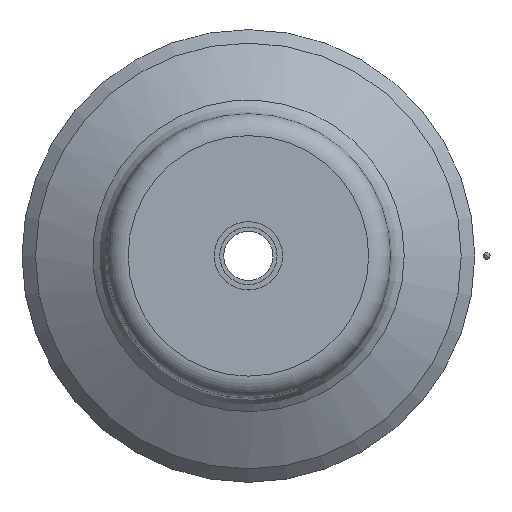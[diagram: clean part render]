
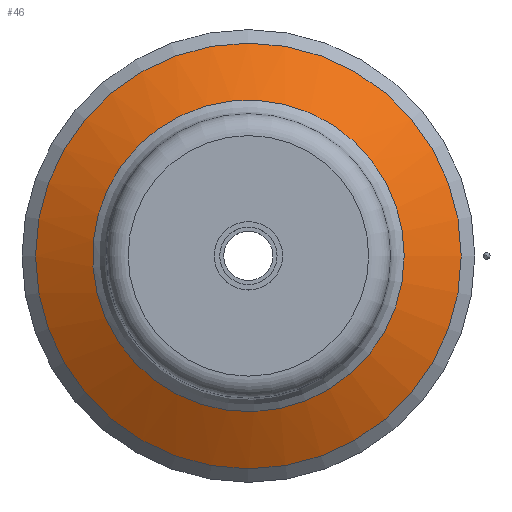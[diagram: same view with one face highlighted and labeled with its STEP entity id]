
A CAD part, top view. The second image highlights one B-rep face of the part: STEP entity #46.
In plain terms, the highlighted conical face has half-angle 60 degrees and reference radius 33.72 mm.
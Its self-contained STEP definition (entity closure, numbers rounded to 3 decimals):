
#46=ADVANCED_FACE('',(#105,#106),#107,.T.);
#105=FACE_BOUND('',#195,.T.);
#106=FACE_OUTER_BOUND('',#196,.T.);
#107=CONICAL_SURFACE('',#197,33.72,1.047);
#195=EDGE_LOOP('',(#275));
#196=EDGE_LOOP('',(#276));
#197=AXIS2_PLACEMENT_3D('',#277,#278,#279);
#275=ORIENTED_EDGE('',*,*,#394,.T.);
#276=ORIENTED_EDGE('',*,*,#395,.F.);
#277=CARTESIAN_POINT('',(0.0,0.,6.903));
#278=DIRECTION('',(0.0,0.,-1.0));
#279=DIRECTION('',(1.0,0.0,0.0));
#394=EDGE_CURVE('',#434,#434,#435,.T.);
#395=EDGE_CURVE('',#436,#436,#437,.T.);
#434=VERTEX_POINT('',#492);
#435=B_SPLINE_CURVE_WITH_KNOTS('',3,(#493,#494,#495,#496,#497,#498,#499,#500,#501,#502,#503,#504,#505,#506,#507,#508,#509,#510,#511,#512,#513,#514,#515,#516,#517,#518,#519,#520,#521,#522,#523,#524,#525,#526,#527,#528,#529,#530,#531,#532,#533,#534,#535,#536,#537,#538,#539,#540,#541,#542,#543,#544,#545,#546,#547,#548,#549,#550,#551,#552,#553,#554,#555,#556,#557,#558),.UNSPECIFIED.,.T.,.F.,(2,2,2,2,2,2,2,2,2,2,2,2,2,2,2,2,2,2,2,2,2,2,2,2,2,2,2,2,2,2,2,2,2,2,2),(-0.031,0.0,0.031,0.063,0.094,0.125,0.156,0.188,0.219,0.25,0.281,0.313,0.344,0.375,0.406,0.438,0.469,0.5,0.531,0.563,0.594,0.625,0.656,0.688,0.719,0.75,0.781,0.813,0.844,0.875,0.906,0.938,0.969,1.0,1.031),.UNSPECIFIED.);
#436=VERTEX_POINT('',#559);
#437=CIRCLE('',#560,38.939);
#492=CARTESIAN_POINT('',(28.5,0.,9.916));
#493=CARTESIAN_POINT('',(28.5,1.865,9.916));
#494=CARTESIAN_POINT('',(28.5,-1.865,9.916));
#495=CARTESIAN_POINT('',(28.317,-3.731,9.916));
#496=CARTESIAN_POINT('',(27.589,-7.39,9.916));
#497=CARTESIAN_POINT('',(27.045,-9.183,9.916));
#498=CARTESIAN_POINT('',(25.617,-12.63,9.916));
#499=CARTESIAN_POINT('',(24.734,-14.283,9.916));
#500=CARTESIAN_POINT('',(22.661,-17.385,9.916));
#501=CARTESIAN_POINT('',(21.472,-18.834,9.916));
#502=CARTESIAN_POINT('',(18.834,-21.472,9.916));
#503=CARTESIAN_POINT('',(17.385,-22.661,9.916));
#504=CARTESIAN_POINT('',(14.283,-24.734,9.916));
#505=CARTESIAN_POINT('',(12.63,-25.617,9.916));
#506=CARTESIAN_POINT('',(9.183,-27.045,9.916));
#507=CARTESIAN_POINT('',(7.39,-27.589,9.916));
#508=CARTESIAN_POINT('',(3.731,-28.317,9.916));
#509=CARTESIAN_POINT('',(1.865,-28.5,9.916));
#510=CARTESIAN_POINT('',(-1.865,-28.5,9.916));
#511=CARTESIAN_POINT('',(-3.731,-28.317,9.916));
#512=CARTESIAN_POINT('',(-7.39,-27.589,9.916));
#513=CARTESIAN_POINT('',(-9.183,-27.045,9.916));
#514=CARTESIAN_POINT('',(-12.63,-25.617,9.916));
#515=CARTESIAN_POINT('',(-14.283,-24.734,9.916));
#516=CARTESIAN_POINT('',(-17.385,-22.661,9.916));
#517=CARTESIAN_POINT('',(-18.834,-21.472,9.916));
#518=CARTESIAN_POINT('',(-21.472,-18.834,9.916));
#519=CARTESIAN_POINT('',(-22.661,-17.385,9.916));
#520=CARTESIAN_POINT('',(-24.734,-14.283,9.916));
#521=CARTESIAN_POINT('',(-25.617,-12.63,9.916));
#522=CARTESIAN_POINT('',(-27.045,-9.183,9.916));
#523=CARTESIAN_POINT('',(-27.589,-7.39,9.916));
#524=CARTESIAN_POINT('',(-28.317,-3.731,9.916));
#525=CARTESIAN_POINT('',(-28.5,-1.865,9.916));
#526=CARTESIAN_POINT('',(-28.5,1.865,9.916));
#527=CARTESIAN_POINT('',(-28.317,3.731,9.916));
#528=CARTESIAN_POINT('',(-27.589,7.39,9.916));
#529=CARTESIAN_POINT('',(-27.045,9.183,9.916));
#530=CARTESIAN_POINT('',(-25.617,12.63,9.916));
#531=CARTESIAN_POINT('',(-24.734,14.283,9.916));
#532=CARTESIAN_POINT('',(-22.661,17.385,9.916));
#533=CARTESIAN_POINT('',(-21.472,18.834,9.916));
#534=CARTESIAN_POINT('',(-18.834,21.472,9.916));
#535=CARTESIAN_POINT('',(-17.385,22.661,9.916));
#536=CARTESIAN_POINT('',(-14.283,24.734,9.916));
#537=CARTESIAN_POINT('',(-12.63,25.617,9.916));
#538=CARTESIAN_POINT('',(-9.183,27.045,9.916));
#539=CARTESIAN_POINT('',(-7.39,27.589,9.916));
#540=CARTESIAN_POINT('',(-3.731,28.317,9.916));
#541=CARTESIAN_POINT('',(-1.865,28.5,9.916));
#542=CARTESIAN_POINT('',(1.865,28.5,9.916));
#543=CARTESIAN_POINT('',(3.731,28.317,9.916));
#544=CARTESIAN_POINT('',(7.39,27.589,9.916));
#545=CARTESIAN_POINT('',(9.183,27.045,9.916));
#546=CARTESIAN_POINT('',(12.63,25.617,9.916));
#547=CARTESIAN_POINT('',(14.283,24.734,9.916));
#548=CARTESIAN_POINT('',(17.385,22.661,9.916));
#549=CARTESIAN_POINT('',(18.834,21.472,9.916));
#550=CARTESIAN_POINT('',(21.472,18.834,9.916));
#551=CARTESIAN_POINT('',(22.661,17.385,9.916));
#552=CARTESIAN_POINT('',(24.734,14.283,9.916));
#553=CARTESIAN_POINT('',(25.617,12.63,9.916));
#554=CARTESIAN_POINT('',(27.045,9.183,9.916));
#555=CARTESIAN_POINT('',(27.589,7.39,9.916));
#556=CARTESIAN_POINT('',(28.317,3.731,9.916));
#557=CARTESIAN_POINT('',(28.5,1.865,9.916));
#558=CARTESIAN_POINT('',(28.5,-1.865,9.916));
#559=CARTESIAN_POINT('',(38.939,0.,3.889));
#560=AXIS2_PLACEMENT_3D('',#614,#615,#616);
#614=CARTESIAN_POINT('',(0.0,0.,3.889));
#615=DIRECTION('',(0.0,0.,-1.0));
#616=DIRECTION('',(1.0,0.0,0.0));
